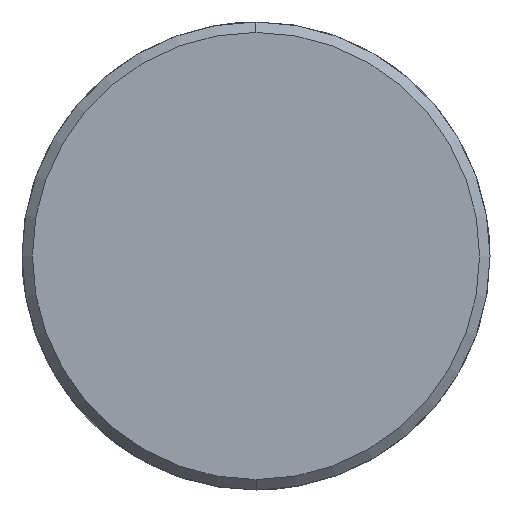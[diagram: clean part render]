
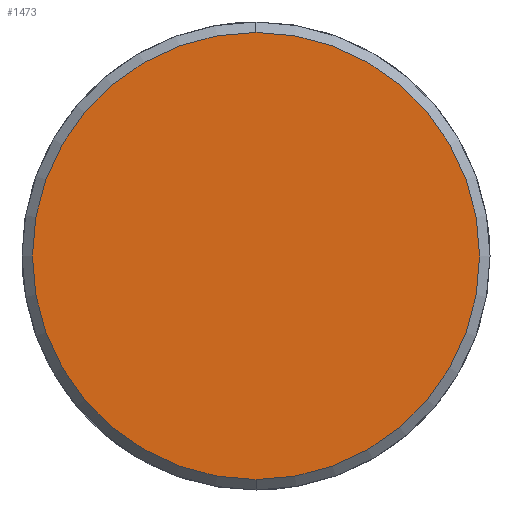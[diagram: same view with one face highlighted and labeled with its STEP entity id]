
A CAD part, left-side view. The second image highlights one B-rep face of the part: STEP entity #1473.
In plain terms, the highlighted planar face has unit normal (-1, 0, 0).
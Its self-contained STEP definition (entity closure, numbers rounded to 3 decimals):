
#1405=CARTESIAN_POINT('Vertex',(-7.,0.,-21.5)) ;
#1408=CARTESIAN_POINT('Axis2P3D Location',(-7.,0.,0.)) ;
#1412=CARTESIAN_POINT('Vertex',(-7.,21.5,0.)) ;
#1415=CARTESIAN_POINT('Axis2P3D Location',(-7.,0.,0.)) ;
#1419=CARTESIAN_POINT('Vertex',(-7.,0.,21.5)) ;
#1441=CARTESIAN_POINT('Axis2P3D Location',(-7.,0.,0.)) ;
#1445=CARTESIAN_POINT('Vertex',(-7.,-21.5,0.)) ;
#1448=CARTESIAN_POINT('Axis2P3D Location',(-7.,0.,0.)) ;
#1462=CARTESIAN_POINT('Axis2P3D Location',(-7.,0.,0.)) ;
#1409=DIRECTION('Axis2P3D Direction',(1.,0.,-0.)) ;
#1416=DIRECTION('Axis2P3D Direction',(1.,0.,-0.)) ;
#1442=DIRECTION('Axis2P3D Direction',(1.,0.,-0.)) ;
#1449=DIRECTION('Axis2P3D Direction',(1.,0.,-0.)) ;
#1463=DIRECTION('Axis2P3D Direction',(1.,0.,-0.)) ;
#1464=DIRECTION('Axis2P3D XDirection',(-0.,0.,-1.)) ;
#1410=AXIS2_PLACEMENT_3D('Circle Axis2P3D',#1408,#1409,$) ;
#1417=AXIS2_PLACEMENT_3D('Circle Axis2P3D',#1415,#1416,$) ;
#1443=AXIS2_PLACEMENT_3D('Circle Axis2P3D',#1441,#1442,$) ;
#1450=AXIS2_PLACEMENT_3D('Circle Axis2P3D',#1448,#1449,$) ;
#1465=AXIS2_PLACEMENT_3D('Plane Axis2P3D',#1462,#1463,#1464) ;
#1468=ORIENTED_EDGE('',*,*,#1414,.F.) ;
#1469=ORIENTED_EDGE('',*,*,#1452,.F.) ;
#1470=ORIENTED_EDGE('',*,*,#1447,.F.) ;
#1471=ORIENTED_EDGE('',*,*,#1421,.F.) ;
#1473=ADVANCED_FACE('351-32X66X260',(#1472),#1466,.F.) ;
#1411=CIRCLE('generated circle',#1410,21.5) ;
#1418=CIRCLE('generated circle',#1417,21.5) ;
#1444=CIRCLE('generated circle',#1443,21.5) ;
#1451=CIRCLE('generated circle',#1450,21.5) ;
#1414=EDGE_CURVE('',#1406,#1413,#1411,.T.) ;
#1421=EDGE_CURVE('',#1413,#1420,#1418,.T.) ;
#1447=EDGE_CURVE('',#1420,#1446,#1444,.T.) ;
#1452=EDGE_CURVE('',#1446,#1406,#1451,.T.) ;
#1467=EDGE_LOOP('',(#1468,#1469,#1470,#1471)) ;
#1472=FACE_OUTER_BOUND('',#1467,.T.) ;
#1466=PLANE('Plane',#1465) ;
#1406=VERTEX_POINT('',#1405) ;
#1413=VERTEX_POINT('',#1412) ;
#1420=VERTEX_POINT('',#1419) ;
#1446=VERTEX_POINT('',#1445) ;
